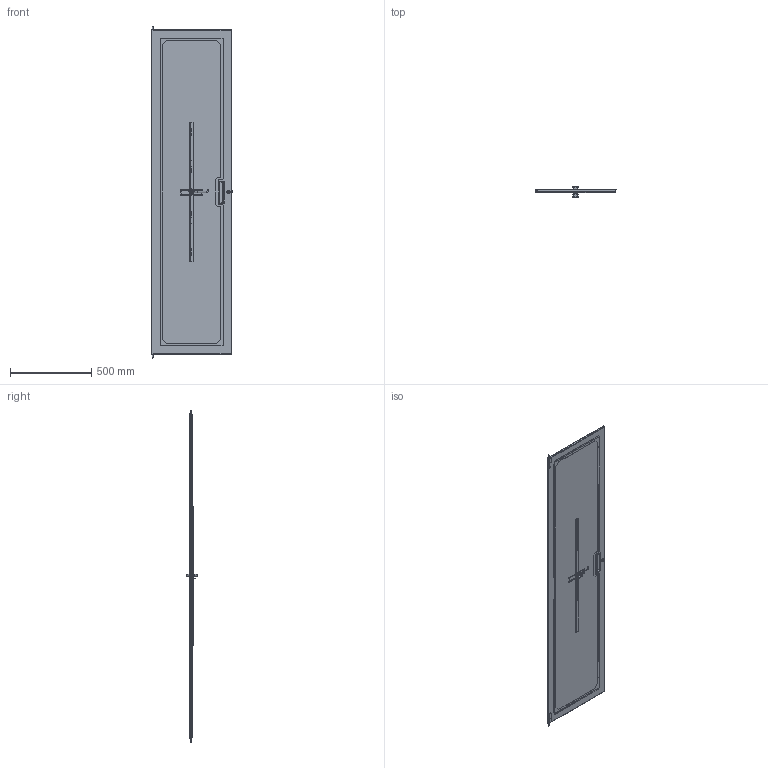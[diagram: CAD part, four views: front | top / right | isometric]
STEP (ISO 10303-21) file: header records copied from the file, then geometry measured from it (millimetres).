
FILE_DESCRIPTION( ( 'Unknown' ), '1' );
FILE_NAME( 'Q:/C2/WEB DRAWINGS/STEP/C2DF1978P.stp', 'Unknown', ( 'Unknown' ), ( 'Unknown' ), 'XStep 1.0', 'Unknown', ' ' );
FILE_SCHEMA( ( 'CONFIG_CONTROL_DESIGN' ) );
Length unit declared in the file: millimetre
Products named in the file (28): Assem1; Assem2; Assem3; 1; 2; 3; 4; 5; 6; 7; 8; 9; 10; 11; 12; 13; 14; 15; 16; 17; 18; 19; 20; 21; 22; 23; 24; 25
Bounding box: 496.67 x 69.85 x 2041.8 mm (x, y, z)
Volume: 11353991.1 mm3; surface area: 5828783 mm2
Topology: 80 solids, 80 shells, 1130 faces, 2527 edges, 1628 vertices
Faces by surface type: plane 725, cylinder 318, cone 65, bspline 16, torus 6
Full cylindrical faces by diameter (mm): 4.775 x54, 5.182 x3, 6.35 x63, 8.382 x2, 13.868 x2, 13.97 x2, 21.996 x2
Entity records: 11283 total; most frequent: CARTESIAN_POINT 1998, DIRECTION 1737, ORIENTED_EDGE 1478, EDGE_CURVE 739, AXIS2_PLACEMENT_3D 625, VERTEX_POINT 514, LINE 487, VECTOR 487
